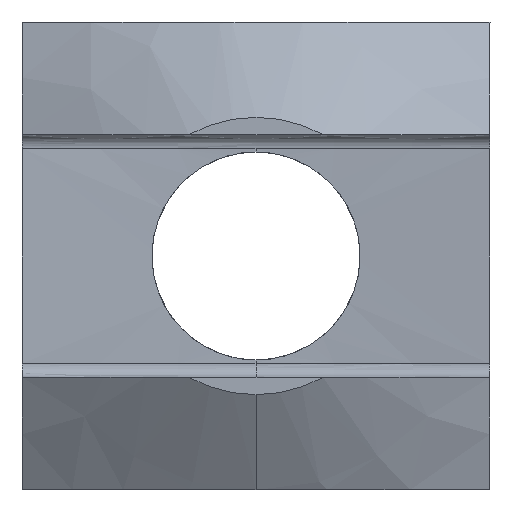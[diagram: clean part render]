
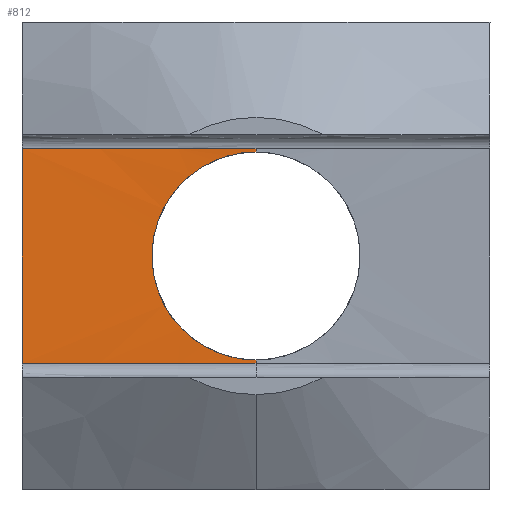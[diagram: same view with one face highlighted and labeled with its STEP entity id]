
A CAD part, left-side view. The second image highlights one B-rep face of the part: STEP entity #812.
In plain terms, the highlighted cylindrical face has radius 157 mm (diameter 314 mm), a partial arc.
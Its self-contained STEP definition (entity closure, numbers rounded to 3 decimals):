
#4 = CARTESIAN_POINT ( 'NONE',  ( 56.57, 1.936, -5.693 ) ) ;
#30 = VERTEX_POINT ( 'NONE', #1365 ) ;
#43 = CARTESIAN_POINT ( 'NONE',  ( 56.581, 0., -6. ) ) ;
#98 = EDGE_CURVE ( 'NONE', #217, #1054, #263, .T. ) ;
#106 = CARTESIAN_POINT ( 'NONE',  ( 56.489, 5.385, -2.653 ) ) ;
#113 = CARTESIAN_POINT ( 'NONE',  ( 56.468, 5.962, 0.785 ) ) ;
#114 = LINE ( 'NONE', #243, #1243 ) ;
#120 = CARTESIAN_POINT ( 'NONE',  ( 56.574, 1.562, -5.806 ) ) ;
#124 = CARTESIAN_POINT ( 'NONE',  ( 56.473, 5.846, 1.365 ) ) ;
#152 = ORIENTED_EDGE ( 'NONE', *, *, #904, .F. ) ;
#187 = ORIENTED_EDGE ( 'NONE', *, *, #1155, .T. ) ;
#193 = EDGE_CURVE ( 'NONE', #30, #759, #972, .T. ) ;
#210 = CARTESIAN_POINT ( 'NONE',  ( 56.495, 5.2, -3. ) ) ;
#214 = CARTESIAN_POINT ( 'NONE',  ( 56.539, 3.657, 4.773 ) ) ;
#217 = VERTEX_POINT ( 'NONE', #823 ) ;
#222 = CARTESIAN_POINT ( 'NONE',  ( 56.478, 5.695, -1.928 ) ) ;
#225 = CARTESIAN_POINT ( 'NONE',  ( 56.517, 4.526, -3.959 ) ) ;
#227 = CARTESIAN_POINT ( 'NONE',  ( 56.539, 3.662, -4.769 ) ) ;
#243 = CARTESIAN_POINT ( 'NONE',  ( 56., 13.5, 0. ) ) ;
#246 = DIRECTION ( 'NONE',  ( 1., 0., 0. ) ) ;
#252 = CARTESIAN_POINT ( 'NONE',  ( 56.581, 0., 0. ) ) ;
#263 = CIRCLE ( 'NONE', #556, 157. ) ;
#267 = DIRECTION ( 'NONE',  ( 1., 0., 0. ) ) ;
#285 = CARTESIAN_POINT ( 'NONE',  ( 56., 13.5, -6.2 ) ) ;
#300 = AXIS2_PLACEMENT_3D ( 'NONE', #1221, #550, #1351 ) ;
#321 = CARTESIAN_POINT ( 'NONE',  ( 56.499, 5.099, -3.169 ) ) ;
#322 = CARTESIAN_POINT ( 'NONE',  ( 56.581, 0., 6.2 ) ) ;
#325 = CARTESIAN_POINT ( 'NONE',  ( 56.467, 6., -0.387 ) ) ;
#333 = CARTESIAN_POINT ( 'NONE',  ( 56.581, 0.396, -6. ) ) ;
#378 = DIRECTION ( 'NONE',  ( 0., 0., 1. ) ) ;
#382 = ORIENTED_EDGE ( 'NONE', *, *, #98, .F. ) ;
#384 = CARTESIAN_POINT ( 'NONE',  ( 56.581, 0., 0. ) ) ;
#410 = CIRCLE ( 'NONE', #300, 157. ) ;
#421 = CARTESIAN_POINT ( 'NONE',  ( 56.479, 5.683, 1.933 ) ) ;
#428 = CARTESIAN_POINT ( 'NONE',  ( 56.553, 3.007, -5.196 ) ) ;
#434 = CARTESIAN_POINT ( 'NONE',  ( 56.559, 2.661, -5.381 ) ) ;
#447 = VECTOR ( 'NONE', #378, 1000. ) ;
#454 = DIRECTION ( 'NONE',  ( 0., 0., 1. ) ) ;
#486 = AXIS2_PLACEMENT_3D ( 'NONE', #659, #902, #246 ) ;
#495 = ORIENTED_EDGE ( 'NONE', *, *, #193, .T. ) ;
#498 = VERTEX_POINT ( 'NONE', #43 ) ;
#546 = CARTESIAN_POINT ( 'NONE',  ( 56., 13.5, 6.2 ) ) ;
#550 = DIRECTION ( 'NONE',  ( 0., 0., -1. ) ) ;
#556 = AXIS2_PLACEMENT_3D ( 'NONE', #675, #692, #267 ) ;
#617 = ORIENTED_EDGE ( 'NONE', *, *, #1175, .F. ) ;
#623 = CYLINDRICAL_SURFACE ( 'NONE', #486, 157. ) ;
#630 = CARTESIAN_POINT ( 'NONE',  ( 56.576, 1.361, 5.847 ) ) ;
#640 = CARTESIAN_POINT ( 'NONE',  ( 56.483, 5.551, 2.302 ) ) ;
#643 = CARTESIAN_POINT ( 'NONE',  ( 56.562, 2.481, -5.467 ) ) ;
#659 = CARTESIAN_POINT ( 'NONE',  ( -100.419, 0., 0. ) ) ;
#675 = CARTESIAN_POINT ( 'NONE',  ( -100.419, 0., -6.2 ) ) ;
#676 = VECTOR ( 'NONE', #454, 1000. ) ;
#692 = DIRECTION ( 'NONE',  ( 0., 0., 1. ) ) ;
#746 = CARTESIAN_POINT ( 'NONE',  ( 56.553, 3.005, 5.208 ) ) ;
#751 = CARTESIAN_POINT ( 'NONE',  ( 56.489, 5.384, 2.655 ) ) ;
#758 = CARTESIAN_POINT ( 'NONE',  ( 56.532, 3.966, 4.519 ) ) ;
#759 = VERTEX_POINT ( 'NONE', #322 ) ;
#812 = ADVANCED_FACE ( 'NONE', ( #862 ), #623, .F. ) ;
#823 = CARTESIAN_POINT ( 'NONE',  ( 56.581, 0., -6.2 ) ) ;
#825 = CARTESIAN_POINT ( 'NONE',  ( 56.581, 0.396, 6. ) ) ;
#839 = CARTESIAN_POINT ( 'NONE',  ( 56.58, 0.786, 5.961 ) ) ;
#862 = FACE_OUTER_BOUND ( 'NONE', #942, .T. ) ;
#866 = CARTESIAN_POINT ( 'NONE',  ( 56.486, 5.47, -2.473 ) ) ;
#873 = CARTESIAN_POINT ( 'NONE',  ( 56.509, 4.768, 3.664 ) ) ;
#879 = CARTESIAN_POINT ( 'NONE',  ( 56.474, 5.808, -1.554 ) ) ;
#882 = CARTESIAN_POINT ( 'NONE',  ( 56.58, 0.793, -5.96 ) ) ;
#889 = CARTESIAN_POINT ( 'NONE',  ( 56.468, 5.961, -0.785 ) ) ;
#902 = DIRECTION ( 'NONE',  ( 0., 0., 1. ) ) ;
#904 = EDGE_CURVE ( 'NONE', #1054, #1183, #114, .T. ) ;
#942 = EDGE_LOOP ( 'NONE', ( #382, #187, #1298, #495, #617, #152 ) ) ;
#972 = LINE ( 'NONE', #384, #447 ) ;
#984 = CARTESIAN_POINT ( 'NONE',  ( 56.549, 3.175, -5.095 ) ) ;
#988 = CARTESIAN_POINT ( 'NONE',  ( 56.467, 6., 0.395 ) ) ;
#994 = CARTESIAN_POINT ( 'NONE',  ( 56.532, 3.966, -4.52 ) ) ;
#1001 = CARTESIAN_POINT ( 'NONE',  ( 56.574, 1.551, 5.799 ) ) ;
#1006 = DIRECTION ( 'NONE',  ( 0., 0., 1. ) ) ;
#1007 = B_SPLINE_CURVE_WITH_KNOTS ( 'NONE', 3,
 ( #1157, #825, #839, #630, #1001, #1417, #1090, #1311, #746, #214, #758, #1424, #873, #1204, #1317, #751, #640, #421, #1105, #124, #113, #988, #325, #889, #879, #222, #866, #106, #210, #321, #1099, #225, #994, #227, #984, #428, #434, #643, #4, #120, #882, #333, #1211 ),
 .UNSPECIFIED., .F., .F.,
 ( 4, 2, 2, 2, 2, 2, 2, 2, 1, 2, 2, 2, 2, 2, 2, 2, 2, 2, 2, 2, 2, 4 ),
 ( -0.019, -0.018, -0.017, -0.016, -0.015, -0.014, -0.013, -0.012, -0.012, -0.011, -0.011, -0.009, -0.008, -0.007, -0.006, -0.006, -0.005, -0.004, -0.003, -0.002, -0.001, 0. ),
 .UNSPECIFIED. ) ;
#1054 = VERTEX_POINT ( 'NONE', #285 ) ;
#1090 = CARTESIAN_POINT ( 'NONE',  ( 56.567, 2.116, 5.618 ) ) ;
#1099 = CARTESIAN_POINT ( 'NONE',  ( 56.509, 4.773, -3.656 ) ) ;
#1103 = EDGE_CURVE ( 'NONE', #30, #498, #1007, .T. ) ;
#1105 = CARTESIAN_POINT ( 'NONE',  ( 56.474, 5.798, 1.558 ) ) ;
#1155 = EDGE_CURVE ( 'NONE', #217, #498, #1242, .T. ) ;
#1157 = CARTESIAN_POINT ( 'NONE',  ( 56.581, 0., 6. ) ) ;
#1175 = EDGE_CURVE ( 'NONE', #1183, #759, #410, .T. ) ;
#1183 = VERTEX_POINT ( 'NONE', #546 ) ;
#1204 = CARTESIAN_POINT ( 'NONE',  ( 56.499, 5.097, 3.172 ) ) ;
#1211 = CARTESIAN_POINT ( 'NONE',  ( 56.581, 0., -6. ) ) ;
#1221 = CARTESIAN_POINT ( 'NONE',  ( -100.419, 0., 6.2 ) ) ;
#1242 = LINE ( 'NONE', #252, #676 ) ;
#1243 = VECTOR ( 'NONE', #1006, 1000. ) ;
#1298 = ORIENTED_EDGE ( 'NONE', *, *, #1103, .F. ) ;
#1311 = CARTESIAN_POINT ( 'NONE',  ( 56.559, 2.661, 5.392 ) ) ;
#1317 = CARTESIAN_POINT ( 'NONE',  ( 56.495, 5.199, 3.002 ) ) ;
#1351 = DIRECTION ( 'NONE',  ( 1., 0., 0. ) ) ;
#1365 = CARTESIAN_POINT ( 'NONE',  ( 56.581, 0., 6. ) ) ;
#1417 = CARTESIAN_POINT ( 'NONE',  ( 56.57, 1.928, 5.685 ) ) ;
#1424 = CARTESIAN_POINT ( 'NONE',  ( 56.517, 4.519, 3.966 ) ) ;
